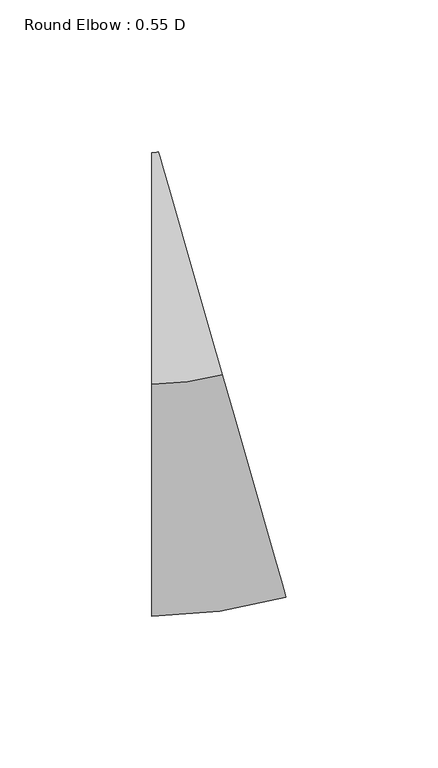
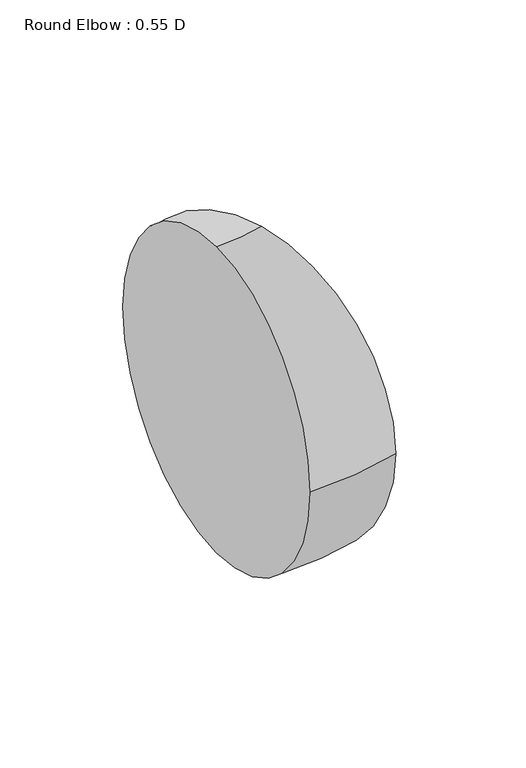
"""IFC4 building model written with IfcOpenShell, lengths in millimetres: duct fitting geometry, Round Elbow : 0.55 D."""

from ifc_helpers import new_model, si_unit, point, frame, origin, place, context, project, spatial, circle_curve, ellipse_curve, trimmed, source, transform, mapped, element, save
from ifc_brep_helpers import plane_surface, revolved_surface, advanced_brep


def round_elbow_0_55_d_09b24e18(model_context):
    return source(origin(), model_context, "Body", "AdvancedBrep", [
        advanced_brep(
        [(-11.7801328, 0.0, 76.2), (-11.7801328, 76.2, 0.0), (-11.7801328, 0.0, -76.2), (-11.7801328, -76.2, 0.0), (11.3237904, 3.2470446, 76.2), (32.3273569, -70.0010966, 0.0), (11.3237904, 3.2470446, -76.2), (-9.6797761, 76.4951859, 0.0)],
        [
            (0, 1, circle_curve(frame((-11.7801328, 0.0, 0.0), z_axis=(-1.0, 0.0, 0.0), x_axis=(0.0, 1.0, 0.0)), 76.2)),
            (1, 2, circle_curve(frame((-11.7801328, 0.0, 0.0), z_axis=(-1.0, 0.0, 0.0), x_axis=(0.0, 1.0, 0.0)), 76.2)),
            (2, 3, circle_curve(frame((-11.7801328, 0.0, 0.0), z_axis=(-1.0, 0.0, 0.0), x_axis=(0.0, 1.0, 0.0)), 76.2)),
            (3, 0, circle_curve(frame((-11.7801328, 0.0, 0.0), z_axis=(-1.0, 0.0, 0.0), x_axis=(0.0, 1.0, 0.0)), 76.2)),
            (4, 5, circle_curve(frame((11.3237904, 3.2470446, 0.0), z_axis=(0.9612616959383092, 0.27563735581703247, 0.0), x_axis=(-0.27563735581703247, 0.9612616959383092, 0.0)), 76.2)),
            (5, 6, circle_curve(frame((11.3237904, 3.2470446, 0.0), z_axis=(0.9612616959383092, 0.27563735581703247, 0.0), x_axis=(-0.27563735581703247, 0.9612616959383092, 0.0)), 76.2)),
            (6, 7, circle_curve(frame((11.3237904, 3.2470446, 0.0), z_axis=(0.9612616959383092, 0.27563735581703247, 0.0), x_axis=(-0.27563735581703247, 0.9612616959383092, 0.0)), 76.2)),
            (7, 4, circle_curve(frame((11.3237904, 3.2470446, 0.0), z_axis=(0.9612616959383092, 0.27563735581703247, 0.0), x_axis=(-0.27563735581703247, 0.9612616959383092, 0.0)), 76.2)),
            (7, 1, circle_curve(frame((-11.7801328, 83.82, 0.0), z_axis=(0.0, 0.0, -1.0), x_axis=(0.0, -1.0, 0.0)), 7.62)),
            (0, 4, circle_curve(frame((-11.7801328, 83.82, 76.2), z_axis=(0.0, 0.0, 1.0), x_axis=(0.0, -1.0, 0.0)), 83.82)),
            (6, 2, circle_curve(frame((-11.7801328, 83.82, -76.2), z_axis=(0.0, 0.0, -1.0), x_axis=(0.0, -1.0, 0.0)), 83.82)),
            (5, 3, circle_curve(frame((-11.7801328, 83.82, 0.0), z_axis=(0.0, 0.0, -1.0), x_axis=(0.0, -1.0, 0.0)), 160.02)),
        ],
        [
            plane_surface(frame((-11.7801328, 0.0, 0.0), z_axis=(-1.0, 0.0, 0.0), x_axis=(0.0, 0.0, 1.0))),
            plane_surface(frame((11.3237904, 3.2470446, 0.0), z_axis=(0.9612616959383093, 0.2756373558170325, 0.0), x_axis=(0.0, 0.0, 1.0))),
            revolved_surface(trimmed(ellipse_curve(frame((-11.7801328, 0.0, 0.0), z_axis=(-1.0, 0.0, 0.0), x_axis=(0.0, 1.0, 0.0)), 76.2, 76.2), [point((-11.7801328, 0.0, 76.2))], [point((-11.7801328, 76.2, 0.0))], True, "CARTESIAN"), (-11.7801328, 83.82, 0.0), (0.0, 0.0, 1.0)),
            revolved_surface(trimmed(ellipse_curve(frame((-11.7801328, 0.0, 0.0), z_axis=(-1.0, 0.0, 0.0), x_axis=(0.0, 1.0, 0.0)), 76.2, 76.2), [point((-11.7801328, 76.2, 0.0))], [point((-11.7801328, 0.0, -76.2))], True, "CARTESIAN"), (-11.7801328, 83.82, 0.0), (0.0, 0.0, 1.0)),
            revolved_surface(trimmed(ellipse_curve(frame((-11.7801328, 0.0, 0.0), z_axis=(-1.0, 0.0, 0.0), x_axis=(0.0, 1.0, 0.0)), 76.2, 76.2), [point((-11.7801328, 0.0, -76.2))], [point((-11.7801328, -76.2, 0.0))], True, "CARTESIAN"), (-11.7801328, 83.82, 0.0), (0.0, 0.0, 1.0)),
            revolved_surface(trimmed(ellipse_curve(frame((-11.7801328, 0.0, 0.0), z_axis=(-1.0, 0.0, 0.0), x_axis=(0.0, 1.0, 0.0)), 76.2, 76.2), [point((-11.7801328, -76.2, 0.0))], [point((-11.7801328, 0.0, 76.2))], True, "CARTESIAN"), (-11.7801328, 83.82, 0.0), (0.0, 0.0, 1.0)),
        ],
        [
            (0, [[1, 2, 3, 4]]),
            (1, [[5, 6, 7, 8]]),
            (2, [[9, -1, 10, -8]]),
            (3, [[11, -2, -9, -7]]),
            (4, [[12, -3, -11, -6]]),
            (5, [[-10, -4, -12, -5]]),
        ],
    ),
    ])


if __name__ == "__main__":
    model = new_model("IFC4")
    model_context = context("Model", 3, world=origin())
    ifc_project = project(units=[si_unit("LENGTHUNIT", "METRE", prefix="MILLI")], contexts=[model_context])
    site = spatial("IfcSite", under=ifc_project)
    building = spatial("IfcBuilding", under=site)
    placement = place(None, origin())
    round_elbow_0_55_d_shape = round_elbow_0_55_d_09b24e18(model_context)
    element("IfcDuctFitting", 1, ObjectType="Round Elbow : 0.55 D", at=placement, inside=building, context=model_context, shape_type="MappedRepresentation", body=[
        mapped(round_elbow_0_55_d_shape, transform((0.0, 0.0, 0.0), x_axis=(1.0, 0.0, 0.0), y_axis=(0.0, 1.0, 0.0), z_axis=(0.0, 0.0, 1.0))),
    ])
    save(model, "model.ifc")
